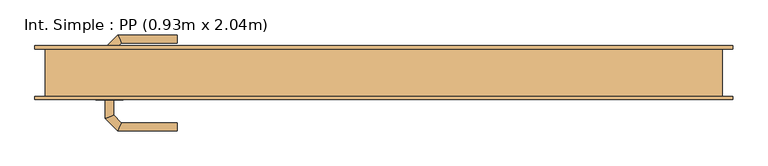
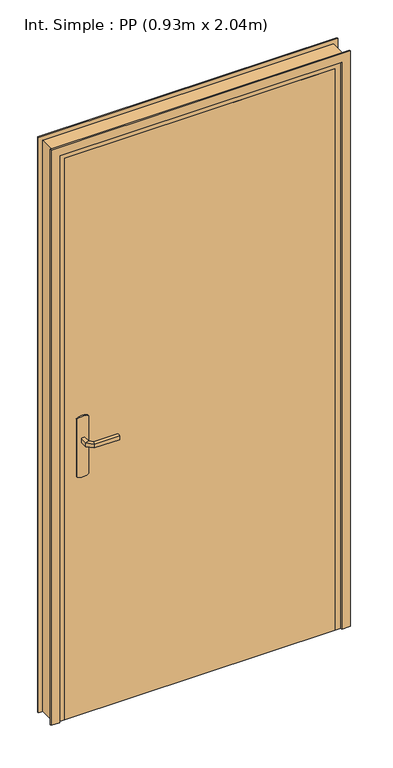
"""IFC4 building model written with IfcOpenShell, lengths in millimetres: door geometry, Int. Simple : PP (0.93m x 2.04m)."""

from ifc_helpers import new_model, si_unit, point, frame, frame_2d, origin, origin_with_axes, place, context, project, spatial, polyline, circle_curve, ellipse_curve, trimmed, segment, composite_curve, outline, extrude, faceted_brep, source, transform, mapped, element, save
from ifc_brep_helpers import plane_surface, cylinder_surface, advanced_brep


def int_simple_pp_0_93m_x_2_04m_b2d4c190(model_context):
    return source(origin(), model_context, "Body", "SolidModel", [
        extrude(outline(composite_curve([segment(trimmed(circle_curve(frame_2d((904.6410162, -440.0)), 40.0), [point((870.0, -460.0))], [point((870.0, -420.0))], False, "CARTESIAN"), True, "CONTINUOUS"), segment(polyline([(870.0, -420.0), (1080.0, -420.0)]), True, "CONTINUOUS"), segment(trimmed(circle_curve(frame_2d((1045.3589838, -440.0)), 40.0), [point((1080.0, -420.0))], [point((1080.0, -460.0))], False, "CARTESIAN"), True, "CONTINUOUS"), segment(polyline([(1080.0, -460.0), (870.0, -460.0)]), True, "CONTINUOUS")], self_intersect=False)), frame((0.0, -40.0, 0.0), z_axis=(0.0, 1.0, 0.0), x_axis=(0.0, 0.0, 1.0)), (0.0, 0.0, 1.0), 5.0),
        extrude(outline(composite_curve([segment(trimmed(circle_curve(frame_2d((1045.3589838, -440.0)), 40.0), [point((1080.0, -420.0))], [point((1080.0, -460.0))], False, "CARTESIAN"), True, "CONTINUOUS"), segment(polyline([(1080.0, -460.0), (870.0, -460.0)]), True, "CONTINUOUS"), segment(trimmed(circle_curve(frame_2d((904.6410162, -440.0)), 40.0), [point((870.0, -460.0))], [point((870.0, -420.0))], False, "CARTESIAN"), True, "CONTINUOUS"), segment(polyline([(870.0, -420.0), (1080.0, -420.0)]), True, "CONTINUOUS")], self_intersect=False)), frame((0.0, 5.0, 0.0), z_axis=(0.0, 1.0, 0.0), x_axis=(0.0, 0.0, 1.0)), (0.0, 0.0, 1.0), 5.0),
        advanced_brep(
        [(-446.0, -40.0, 1007.0), (-434.0, -40.0, 1007.0), (-434.0, -40.0, 993.0), (-446.0, -40.0, 993.0), (-446.0, -67.6509507, 1007.0), (-434.0, -62.680388, 1007.0), (-434.0, -62.680388, 993.0), (-446.0, -67.6509507, 993.0), (-427.62279, -86.0281607, 1007.0), (-422.6522273, -74.0281607, 1007.0), (-422.6522273, -74.0281607, 993.0), (-427.62279, -86.0281607, 993.0), (-339.9813594, -86.0281607, 1007.0), (-339.9813594, -86.0281607, 993.0), (-339.9813594, -74.0281607, 993.0), (-339.9813594, -74.0281607, 1007.0)],
        [
            (0, 1, circle_curve(frame((-440.0, -40.0, 986.9542278), z_axis=(0.0, 1.0, 0.0), x_axis=(1.0, 0.0, 0.0)), 20.9244589)),
            (1, 2),
            (2, 3, circle_curve(frame((-440.0, -40.0, 1013.0457722), z_axis=(0.0, 1.0, 0.0), x_axis=(1.0, 0.0, 0.0)), 20.9244589)),
            (3, 0),
            (0, 4),
            (4, 5, ellipse_curve(frame((-440.0, -65.1656693, 986.9542278), z_axis=(-0.3826834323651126, 0.9238795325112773, 0.0), x_axis=(0.9238795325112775, 0.38268343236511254, 0.0)), 22.6484711, 20.9244589)),
            (5, 1),
            (5, 6),
            (6, 2),
            (6, 7, ellipse_curve(frame((-440.0, -65.1656693, 1013.0457722), z_axis=(-0.3826834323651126, 0.9238795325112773, 0.0), x_axis=(0.9238795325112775, 0.38268343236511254, 0.0)), 22.6484711, 20.9244589)),
            (7, 3),
            (7, 4),
            (4, 8),
            (8, 9, ellipse_curve(frame((-425.1375086, -80.0281607, 986.9542278), z_axis=(-0.9238795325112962, 0.38268343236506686, 0.0), x_axis=(0.3826834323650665, 0.9238795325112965, 0.0)), 22.6484711, 20.9244589)),
            (9, 5),
            (9, 10),
            (10, 6),
            (10, 11, ellipse_curve(frame((-425.1375086, -80.0281607, 1013.0457722), z_axis=(-0.9238795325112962, 0.38268343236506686, 0.0), x_axis=(0.3826834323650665, 0.9238795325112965, 0.0)), 22.6484711, 20.9244589)),
            (11, 7),
            (11, 8),
            (12, 13),
            (13, 14, circle_curve(frame((-339.9813594, -80.0281607, 1013.0457722), z_axis=(1.0, 0.0, 0.0), x_axis=(0.0, 1.0, 0.0)), 20.9244589)),
            (14, 15),
            (15, 12, circle_curve(frame((-339.9813594, -80.0281607, 986.9542278), z_axis=(1.0, 0.0, 0.0), x_axis=(0.0, 1.0, 0.0)), 20.9244589)),
            (8, 12),
            (15, 9),
            (14, 10),
            (13, 11),
        ],
        [
            plane_surface(frame((-449.2195445, -40.0, 1000.0), z_axis=(0.0, 1.0, 0.0), x_axis=(0.0, 0.0, -1.0))),
            cylinder_surface(frame((-440.0, -40.0, 986.9542278), z_axis=(0.0, 1.0, 0.0), x_axis=(1.0, 0.0, 0.0)), 20.9244589),
            plane_surface(frame((-434.0, -40.0, 1007.0), z_axis=(1.0, 0.0, 0.0), x_axis=(0.0, -1.0, 0.0))),
            cylinder_surface(frame((-440.0, -40.0, 1013.0457722), z_axis=(0.0, 1.0, 0.0), x_axis=(1.0, 0.0, 0.0)), 20.9244589),
            plane_surface(frame((-446.0, -40.0, 993.0), z_axis=(-1.0, 0.0, 0.0), x_axis=(0.0, -1.0, 0.0))),
            cylinder_surface(frame((-440.0, -65.1656693, 986.9542278), z_axis=(-0.7071067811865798, 0.7071067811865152, 0.0), x_axis=(0.7071067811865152, 0.7071067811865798, 0.0)), 20.9244589),
            plane_surface(frame((-434.0, -62.680388, 1007.0), z_axis=(0.7071067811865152, 0.7071067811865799, 0.0), x_axis=(0.7071067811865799, -0.7071067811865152, 0.0))),
            cylinder_surface(frame((-440.0, -65.1656693, 1013.0457722), z_axis=(-0.7071067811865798, 0.7071067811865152, 0.0), x_axis=(0.7071067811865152, 0.7071067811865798, 0.0)), 20.9244589),
            plane_surface(frame((-446.0, -67.6509507, 993.0), z_axis=(-0.7071067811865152, -0.7071067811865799, 0.0), x_axis=(0.7071067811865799, -0.7071067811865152, 0.0))),
            plane_surface(frame((-339.9813594, -80.0281607, 990.7804555), z_axis=(1.0, 0.0, 0.0), x_axis=(0.0, 1.0, 0.0))),
            cylinder_surface(frame((-425.1375086, -80.0281607, 986.9542278), z_axis=(-1.0, 0.0, 0.0), x_axis=(0.0, 1.0, 0.0)), 20.9244589),
            plane_surface(frame((-422.6522273, -74.0281607, 1007.0), z_axis=(0.0, 1.0, 0.0), x_axis=(1.0, 0.0, 0.0))),
            cylinder_surface(frame((-425.1375086, -80.0281607, 1013.0457722), z_axis=(-1.0, 0.0, 0.0), x_axis=(0.0, 1.0, 0.0)), 20.9244589),
            plane_surface(frame((-427.62279, -86.0281607, 993.0), z_axis=(0.0, -1.0, 0.0), x_axis=(1.0, 0.0, 0.0))),
        ],
        [
            (0, [[1, 2, 3, 4]]),
            (1, [[-1, 5, 6, 7]]),
            (2, [[-2, -7, 8, 9]]),
            (3, [[-3, -9, 10, 11]]),
            (4, [[-4, -11, 12, -5]]),
            (5, [[-6, 13, 14, 15]]),
            (6, [[-8, -15, 16, 17]]),
            (7, [[-10, -17, 18, 19]]),
            (8, [[-12, -19, 20, -13]]),
            (9, [[21, 22, 23, 24]]),
            (10, [[-14, 25, -24, 26]]),
            (11, [[-16, -26, -23, 27]]),
            (12, [[-18, -27, -22, 28]]),
            (13, [[-20, -28, -21, -25]]),
        ],
    ),
        advanced_brep(
        [(-434.0, 10.0, 993.0), (-434.0, 10.0, 1007.0), (-446.0, 10.0, 1007.0), (-446.0, 10.0, 993.0), (-434.0, 32.4852045, 993.0), (-434.0, 32.4852045, 1007.0), (-446.0, 37.4557673, 1007.0), (-446.0, 37.4557673, 993.0), (-422.5147186, 43.9704859, 993.0), (-422.5147186, 43.9704859, 1007.0), (-427.4852814, 55.9704859, 1007.0), (-427.4852814, 55.9704859, 993.0), (-339.9542163, 43.9704859, 993.0), (-339.9542163, 55.9704859, 993.0), (-339.9542163, 55.9704859, 1007.0), (-339.9542163, 43.9704859, 1007.0)],
        [
            (0, 1),
            (1, 2, circle_curve(frame((-440.0, 10.0, 986.9542278), z_axis=(0.0, -1.0, 0.0), x_axis=(-1.0, 0.0, 0.0)), 20.9244589)),
            (2, 3),
            (3, 0, circle_curve(frame((-440.0, 10.0, 1013.0457722), z_axis=(0.0, -1.0, 0.0), x_axis=(-1.0, 0.0, 0.0)), 20.9244589)),
            (0, 4),
            (4, 5),
            (5, 1),
            (5, 6, ellipse_curve(frame((-440.0, 34.9704859, 986.9542278), z_axis=(-0.3826834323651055, -0.9238795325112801, 0.0), x_axis=(0.9238795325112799, -0.3826834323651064, 0.0)), 22.6484711, 20.9244589)),
            (6, 2),
            (6, 7),
            (7, 3),
            (7, 4, ellipse_curve(frame((-440.0, 34.9704859, 1013.0457722), z_axis=(-0.3826834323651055, -0.9238795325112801, 0.0), x_axis=(0.9238795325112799, -0.3826834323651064, 0.0)), 22.6484711, 20.9244589)),
            (4, 8),
            (8, 9),
            (9, 5),
            (9, 10, ellipse_curve(frame((-425.0, 49.9704859, 986.9542278), z_axis=(-0.9238795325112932, -0.382683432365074, 0.0), x_axis=(0.3826834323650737, -0.9238795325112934, 0.0)), 22.6484711, 20.9244589)),
            (10, 6),
            (10, 11),
            (11, 7),
            (11, 8, ellipse_curve(frame((-425.0, 49.9704859, 1013.0457722), z_axis=(-0.9238795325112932, -0.382683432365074, 0.0), x_axis=(0.3826834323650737, -0.9238795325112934, 0.0)), 22.6484711, 20.9244589)),
            (12, 13, circle_curve(frame((-339.9542163, 49.9704859, 1013.0457722), z_axis=(1.0, 0.0, 0.0), x_axis=(0.0, 1.0, 0.0)), 20.9244589)),
            (13, 14),
            (14, 15, circle_curve(frame((-339.9542163, 49.9704859, 986.9542278), z_axis=(1.0, 0.0, 0.0), x_axis=(0.0, 1.0, 0.0)), 20.9244589)),
            (15, 12),
            (8, 12),
            (15, 9),
            (14, 10),
            (13, 11),
        ],
        [
            plane_surface(frame((-449.2195445, 10.0, 1000.0), z_axis=(0.0, -1.0, 0.0), x_axis=(0.0, 0.0, 1.0))),
            plane_surface(frame((-434.0, 10.0, 993.0), z_axis=(1.0, 0.0, 0.0), x_axis=(0.0, 1.0, 0.0))),
            cylinder_surface(frame((-440.0, 10.0, 986.9542278), z_axis=(0.0, -1.0, 0.0), x_axis=(-1.0, 0.0, 0.0)), 20.9244589),
            plane_surface(frame((-446.0, 10.0, 1007.0), z_axis=(-1.0, 0.0, 0.0), x_axis=(0.0, 1.0, 0.0))),
            cylinder_surface(frame((-440.0, 10.0, 1013.0457722), z_axis=(0.0, -1.0, 0.0), x_axis=(-1.0, 0.0, 0.0)), 20.9244589),
            plane_surface(frame((-434.0, 32.4852045, 993.0), z_axis=(0.7071067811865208, -0.7071067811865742, 0.0), x_axis=(0.7071067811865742, 0.7071067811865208, 0.0))),
            cylinder_surface(frame((-440.0, 34.9704859, 986.9542278), z_axis=(-0.7071067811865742, -0.7071067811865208, 0.0), x_axis=(-0.7071067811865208, 0.7071067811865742, 0.0)), 20.9244589),
            plane_surface(frame((-446.0, 37.4557673, 1007.0), z_axis=(-0.7071067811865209, 0.7071067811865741, 0.0), x_axis=(0.7071067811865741, 0.7071067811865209, 0.0))),
            cylinder_surface(frame((-440.0, 34.9704859, 1013.0457722), z_axis=(-0.7071067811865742, -0.7071067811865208, 0.0), x_axis=(-0.7071067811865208, 0.7071067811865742, 0.0)), 20.9244589),
            plane_surface(frame((-339.9542163, 49.9704859, 990.7804555), z_axis=(1.0, 0.0, 0.0), x_axis=(0.0, 1.0, 0.0))),
            plane_surface(frame((-422.5147186, 43.9704859, 993.0), z_axis=(0.0, -1.0, 0.0), x_axis=(1.0, 0.0, 0.0))),
            cylinder_surface(frame((-425.0, 49.9704859, 986.9542278), z_axis=(-1.0, 0.0, 0.0), x_axis=(0.0, 1.0, 0.0)), 20.9244589),
            plane_surface(frame((-427.4852814, 55.9704859, 1007.0), z_axis=(0.0, 1.0, 0.0), x_axis=(1.0, 0.0, 0.0))),
            cylinder_surface(frame((-425.0, 49.9704859, 1013.0457722), z_axis=(-1.0, 0.0, 0.0), x_axis=(0.0, 1.0, 0.0)), 20.9244589),
        ],
        [
            (0, [[1, 2, 3, 4]]),
            (1, [[-1, 5, 6, 7]]),
            (2, [[-2, -7, 8, 9]]),
            (3, [[-3, -9, 10, 11]]),
            (4, [[-4, -11, 12, -5]]),
            (5, [[-6, 13, 14, 15]]),
            (6, [[-8, -15, 16, 17]]),
            (7, [[-10, -17, 18, 19]]),
            (8, [[-12, -19, 20, -13]]),
            (9, [[21, 22, 23, 24]]),
            (10, [[-14, 25, -24, 26]]),
            (11, [[-16, -26, -23, 27]]),
            (12, [[-18, -27, -22, 28]]),
            (13, [[-20, -28, -21, -25]]),
        ],
    ),
        extrude(outline(polyline([(-500.0, 5.0), (430.0, 5.0), (430.0, -35.0), (-500.0, -35.0), (-500.0, 5.0)])), origin_with_axes(), (0.0, 0.0, 1.0), 2040.0),
        faceted_brep([(-535.0, -35.0, 0.0), (-535.0, 35.0, 0.0), (-485.0, 35.0, 0.0), (-485.0, 5.0, 0.0), (-500.0, 5.0, 0.0), (-500.0, -35.0, 0.0), (-535.0, -35.0, 2075.0), (-535.0, 35.0, 2075.0), (465.0, 35.0, 2075.0), (465.0, 35.0, 0.0), (415.0, 35.0, 0.0), (415.0, 35.0, 2025.0), (-485.0, 35.0, 2025.0), (-485.0, 5.0, 2025.0), (415.0, 5.0, 2025.0), (415.0, 5.0, 0.0), (430.0, 5.0, 0.0), (430.0, 5.0, 2040.0), (-500.0, 5.0, 2040.0), (-500.0, -35.0, 2040.0), (430.0, -35.0, 2040.0), (430.0, -35.0, 0.0), (465.0, -35.0, 0.0), (465.0, -35.0, 2075.0)], [[[0, 1, 2, 3, 4, 5]], [[1, 0, 6, 7]], [[2, 1, 7, 8, 9, 10, 11, 12]], [[3, 2, 12, 13]], [[4, 3, 13, 14, 15, 16, 17, 18]], [[5, 4, 18, 19]], [[0, 5, 19, 20, 21, 22, 23, 6]], [[8, 23, 22, 9]], [[22, 21, 16, 15, 10, 9]], [[14, 11, 10, 15]], [[20, 17, 16, 21]], [[7, 6, 23, 8]], [[13, 12, 11, 14]], [[19, 18, 17, 20]]]),
        extrude(outline(polyline([(0.0, -550.0), (0.0, -520.0), (2060.0, -520.0), (2060.0, 450.0), (0.0, 450.0), (0.0, 480.0), (2090.0, 480.0), (2090.0, -550.0), (0.0, -550.0)])), frame((0.0, -40.0, 0.0), z_axis=(0.0, 1.0, 0.0), x_axis=(0.0, 0.0, 1.0)), (0.0, 0.0, 1.0), 5.0),
        extrude(outline(polyline([(0.0, -550.0), (0.0, -520.0), (2060.0, -520.0), (2060.0, 450.0), (0.0, 450.0), (0.0, 480.0), (2090.0, 480.0), (2090.0, -550.0), (0.0, -550.0)])), frame((0.0, 35.0, 0.0), z_axis=(0.0, 1.0, 0.0), x_axis=(0.0, 0.0, 1.0)), (0.0, 0.0, 1.0), 5.0),
    ])


if __name__ == "__main__":
    model = new_model("IFC4")
    model_context = context("Model", 3, world=origin())
    ifc_project = project(units=[si_unit("LENGTHUNIT", "METRE", prefix="MILLI")], contexts=[model_context])
    site = spatial("IfcSite", under=ifc_project)
    building = spatial("IfcBuilding", under=site)
    placement = place(None, origin())
    int_simple_pp_0_93m_x_2_04m_shape = int_simple_pp_0_93m_x_2_04m_b2d4c190(model_context)
    element("IfcDoor", 1, ObjectType="Int. Simple : PP (0.93m x 2.04m)", at=placement, inside=building, context=model_context, shape_type="MappedRepresentation", body=[
        mapped(int_simple_pp_0_93m_x_2_04m_shape, transform((0.0, 0.0, 0.0), x_axis=(1.0, 0.0, 0.0), y_axis=(0.0, 1.0, 0.0), z_axis=(0.0, 0.0, 1.0))),
    ])
    save(model, "model.ifc")
